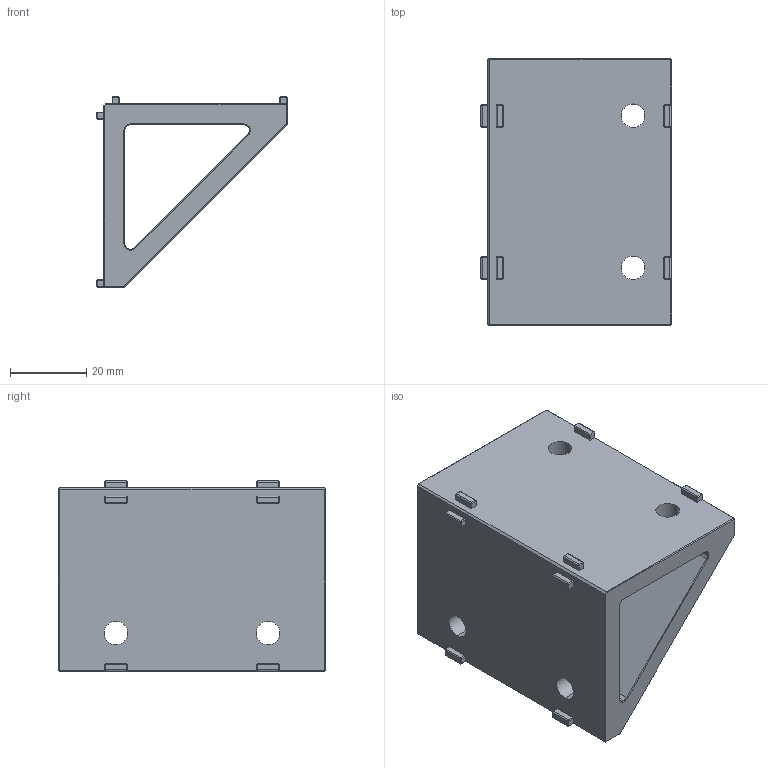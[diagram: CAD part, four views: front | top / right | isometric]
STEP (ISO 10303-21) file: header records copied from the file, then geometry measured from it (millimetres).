
FILE_DESCRIPTION (( 'STEP AP203' ), '1' );
FILE_NAME ('SMBD3-4080（新款）.STEP', '2023-10-12T08:19:33', ( '微软用户' ), ( '微软中国' ), 'SwSTEP 2.0', 'SolidWorks 2019', '' );
FILE_SCHEMA (( 'CONFIG_CONTROL_DESIGN' ));
Length unit declared in the file: millimetre
Products named in the file (1): SMBD3-4080（新款）
Bounding box: 50 x 70 x 50 mm (x, y, z)
Volume: 53078.9 mm3; surface area: 21701.8 mm2
Topology: 1 solids, 1 shells, 218 faces, 535 edges, 319 vertices
Faces by surface type: plane 123, cylinder 44, cone 43, bspline 8
Entity records: 10327 total; most frequent: CARTESIAN_POINT 5161, ORIENTED_EDGE 1070, DIRECTION 1024, EDGE_CURVE 535, LINE 380, VECTOR 380, AXIS2_PLACEMENT_3D 322, VERTEX_POINT 319
